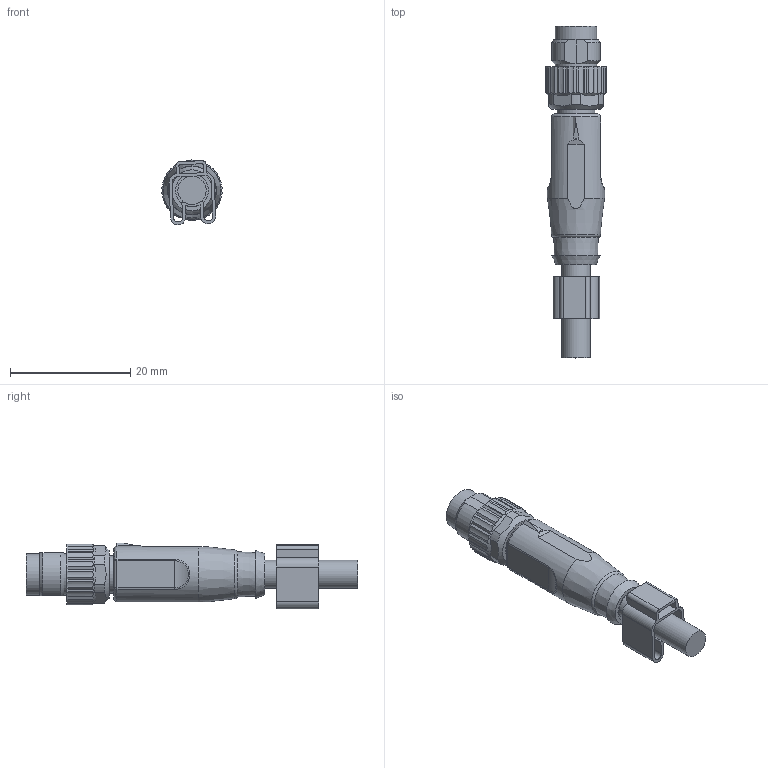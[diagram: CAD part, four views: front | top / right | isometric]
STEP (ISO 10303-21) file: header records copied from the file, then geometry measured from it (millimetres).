
FILE_DESCRIPTION((''),'2;1');
FILE_NAME('K:\Step\Beckhoff\SAL-8S-RS4.stp','2014-09-09T10:22:30',('ulrikefromm'),(''),'Autodesk Inventor 2011','Autodesk Inventor 2011','');
FILE_SCHEMA(('AUTOMOTIVE_DESIGN { 1 0 10303 214 1 1 1 1 }'));
Length unit declared in the file: millimetre
Products named in the file (1): Bauteil2
Bounding box: 10.05 x 55.1 x 10.94 mm (x, y, z)
Volume: 2637.1 mm3; surface area: 2297.2 mm2
Topology: 1 solids, 5 shells, 671 faces, 1858 edges, 1222 vertices
Faces by surface type: plane 521, cylinder 71, cone 39, bspline 31, torus 5, sphere 4
Full cylindrical faces by diameter (mm): 1 x8, 1.2 x4, 5.5 x1, 5.8 x1, 6.25 x1, 6.9 x2
Entity records: 22248 total; most frequent: CARTESIAN_POINT 5119, ORIENTED_EDGE 3598, DIRECTION 3034, EDGE_CURVE 1799, VECTOR 1430, LINE 1430, VERTEX_POINT 1207, AXIS2_PLACEMENT_3D 802
